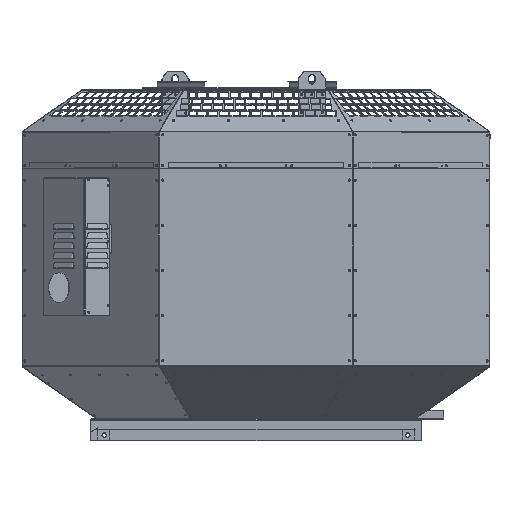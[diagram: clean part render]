
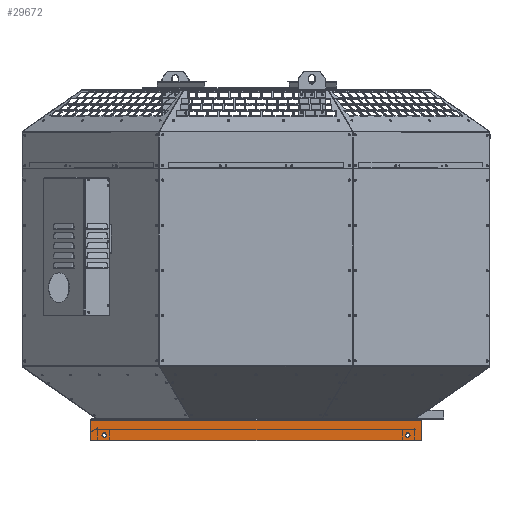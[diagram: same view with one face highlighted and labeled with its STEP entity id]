
A CAD part, top view. The second image highlights one B-rep face of the part: STEP entity #29672.
In plain terms, the highlighted planar face has unit normal (0, 0, 1).
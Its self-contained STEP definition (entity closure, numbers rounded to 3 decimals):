
#38 = LINE ( 'NONE', #112775, #56783 ) ;
#704 = ORIENTED_EDGE ( 'NONE', *, *, #113137, .F. ) ;
#1029 = ORIENTED_EDGE ( 'NONE', *, *, #82099, .T. ) ;
#1618 = VERTEX_POINT ( 'NONE', #97337 ) ;
#3249 = DIRECTION ( 'NONE',  ( 0., -1., 0. ) ) ;
#10495 = EDGE_CURVE ( 'NONE', #85018, #115112, #80330, .T. ) ;
#12364 = EDGE_CURVE ( 'NONE', #115112, #116111, #79699, .T. ) ;
#12641 = CARTESIAN_POINT ( 'NONE',  ( -330.55, 18.5, 337. ) ) ;
#12763 = AXIS2_PLACEMENT_3D ( 'NONE', #77311, #17067, #87442 ) ;
#13485 = FACE_OUTER_BOUND ( 'NONE', #57085, .T. ) ;
#16827 = VERTEX_POINT ( 'NONE', #55317 ) ;
#17067 = DIRECTION ( 'NONE',  ( 0., 0., 1. ) ) ;
#19032 = CIRCLE ( 'NONE', #100185, 3. ) ;
#22202 = ORIENTED_EDGE ( 'NONE', *, *, #10495, .T. ) ;
#22773 = PLANE ( 'NONE',  #102054 ) ;
#26279 = VECTOR ( 'NONE', #34558, 1000. ) ;
#27020 = CARTESIAN_POINT ( 'NONE',  ( -345.45, -25., 337. ) ) ;
#27731 = VERTEX_POINT ( 'NONE', #54025 ) ;
#29275 = CARTESIAN_POINT ( 'NONE',  ( -345.45, -22., 337. ) ) ;
#29672 = ADVANCED_FACE ( 'NONE', ( #90580, #37065, #13485 ), #22773, .T. ) ;
#30452 = CARTESIAN_POINT ( 'NONE',  ( 319., -18.7, 337. ) ) ;
#30883 = ORIENTED_EDGE ( 'NONE', *, *, #129719, .F. ) ;
#32911 = DIRECTION ( 'NONE',  ( 0., 0., 1. ) ) ;
#34558 = DIRECTION ( 'NONE',  ( -1., 0., 0. ) ) ;
#35780 = CARTESIAN_POINT ( 'NONE',  ( -319., -14.2, 337. ) ) ;
#36655 = ORIENTED_EDGE ( 'NONE', *, *, #97940, .F. ) ;
#37065 = FACE_BOUND ( 'NONE', #128053, .T. ) ;
#39372 = DIRECTION ( 'NONE',  ( 0., -1., 0. ) ) ;
#39695 = CIRCLE ( 'NONE', #54553, 4.5 ) ;
#40878 = ORIENTED_EDGE ( 'NONE', *, *, #129261, .F. ) ;
#44026 = ORIENTED_EDGE ( 'NONE', *, *, #94969, .T. ) ;
#45077 = CARTESIAN_POINT ( 'NONE',  ( 319., -9.7, 337. ) ) ;
#45893 = DIRECTION ( 'NONE',  ( 0., -1., 0. ) ) ;
#46549 = LINE ( 'NONE', #106379, #96931 ) ;
#46749 = CARTESIAN_POINT ( 'NONE',  ( -330.55, 16.6, 337. ) ) ;
#47074 = VERTEX_POINT ( 'NONE', #54327 ) ;
#47853 = VECTOR ( 'NONE', #98167, 1000. ) ;
#48304 = DIRECTION ( 'NONE',  ( 0., 0., 1. ) ) ;
#48829 = ORIENTED_EDGE ( 'NONE', *, *, #67696, .F. ) ;
#50472 = VECTOR ( 'NONE', #117193, 1000. ) ;
#51008 = LINE ( 'NONE', #128208, #47853 ) ;
#51034 = VERTEX_POINT ( 'NONE', #30452 ) ;
#52454 = EDGE_LOOP ( 'NONE', ( #110526, #48829 ) ) ;
#53641 = DIRECTION ( 'NONE',  ( 0., 0., 1. ) ) ;
#54025 = CARTESIAN_POINT ( 'NONE',  ( -348.45, -22., 337. ) ) ;
#54327 = CARTESIAN_POINT ( 'NONE',  ( -319., -9.7, 337. ) ) ;
#54553 = AXIS2_PLACEMENT_3D ( 'NONE', #108676, #48304, #118768 ) ;
#54730 = CARTESIAN_POINT ( 'NONE',  ( -330.55, 16.6, 337. ) ) ;
#55317 = CARTESIAN_POINT ( 'NONE',  ( 348.45, 16.6, 337. ) ) ;
#56744 = LINE ( 'NONE', #101358, #107242 ) ;
#56783 = VECTOR ( 'NONE', #82752, 1000. ) ;
#57085 = EDGE_LOOP ( 'NONE', ( #1029, #130665, #36655, #44026, #30883, #116243, #22202, #76528 ) ) ;
#62386 = CIRCLE ( 'NONE', #12763, 4.5 ) ;
#63481 = DIRECTION ( 'NONE',  ( 0., 0., 1. ) ) ;
#67696 = EDGE_CURVE ( 'NONE', #69411, #51034, #78411, .T. ) ;
#69411 = VERTEX_POINT ( 'NONE', #45077 ) ;
#72649 = VERTEX_POINT ( 'NONE', #105861 ) ;
#73550 = EDGE_CURVE ( 'NONE', #51034, #69411, #39695, .T. ) ;
#76528 = ORIENTED_EDGE ( 'NONE', *, *, #12364, .T. ) ;
#77311 = CARTESIAN_POINT ( 'NONE',  ( -319., -14.2, 337. ) ) ;
#78411 = CIRCLE ( 'NONE', #84624, 4.5 ) ;
#79699 = LINE ( 'NONE', #54730, #26279 ) ;
#80330 = LINE ( 'NONE', #46749, #50472 ) ;
#82099 = EDGE_CURVE ( 'NONE', #116111, #27731, #38, .T. ) ;
#82752 = DIRECTION ( 'NONE',  ( 0., -1., 0. ) ) ;
#84624 = AXIS2_PLACEMENT_3D ( 'NONE', #113980, #53641, #124162 ) ;
#85018 = VERTEX_POINT ( 'NONE', #93720 ) ;
#87442 = DIRECTION ( 'NONE',  ( 0., -1., 0. ) ) ;
#90580 = FACE_BOUND ( 'NONE', #52454, .T. ) ;
#93204 = CARTESIAN_POINT ( 'NONE',  ( -348.45, 16.6, 337. ) ) ;
#93720 = CARTESIAN_POINT ( 'NONE',  ( 345.05, 16.6, 337. ) ) ;
#94969 = EDGE_CURVE ( 'NONE', #127777, #1618, #19032, .T. ) ;
#96931 = VECTOR ( 'NONE', #116493, 1000. ) ;
#97337 = CARTESIAN_POINT ( 'NONE',  ( 348.45, -22., 337. ) ) ;
#97940 = EDGE_CURVE ( 'NONE', #127777, #127189, #56744, .T. ) ;
#98167 = DIRECTION ( 'NONE',  ( 1., 0., 0. ) ) ;
#98320 = CARTESIAN_POINT ( 'NONE',  ( -345.05, 16.6, 337. ) ) ;
#99670 = DIRECTION ( 'NONE',  ( 0., 0., 1. ) ) ;
#100185 = AXIS2_PLACEMENT_3D ( 'NONE', #123937, #63481, #3249 ) ;
#101358 = CARTESIAN_POINT ( 'NONE',  ( -330.55, -25., 337. ) ) ;
#102054 = AXIS2_PLACEMENT_3D ( 'NONE', #12641, #32911, #103344 ) ;
#103344 = DIRECTION ( 'NONE',  ( 0., -1., 0. ) ) ;
#105861 = CARTESIAN_POINT ( 'NONE',  ( -319., -18.7, 337. ) ) ;
#106235 = DIRECTION ( 'NONE',  ( 0., 0., 1. ) ) ;
#106379 = CARTESIAN_POINT ( 'NONE',  ( 348.45, 16.6, 337. ) ) ;
#106506 = AXIS2_PLACEMENT_3D ( 'NONE', #35780, #106235, #45893 ) ;
#107242 = VECTOR ( 'NONE', #111526, 1000. ) ;
#108676 = CARTESIAN_POINT ( 'NONE',  ( 319., -14.2, 337. ) ) ;
#109534 = AXIS2_PLACEMENT_3D ( 'NONE', #29275, #99670, #39372 ) ;
#110526 = ORIENTED_EDGE ( 'NONE', *, *, #73550, .F. ) ;
#111526 = DIRECTION ( 'NONE',  ( -1., 0., 0. ) ) ;
#112775 = CARTESIAN_POINT ( 'NONE',  ( -348.45, 16.6, 337. ) ) ;
#113137 = EDGE_CURVE ( 'NONE', #72649, #47074, #127745, .T. ) ;
#113980 = CARTESIAN_POINT ( 'NONE',  ( 319., -14.2, 337. ) ) ;
#115112 = VERTEX_POINT ( 'NONE', #98320 ) ;
#116111 = VERTEX_POINT ( 'NONE', #93204 ) ;
#116243 = ORIENTED_EDGE ( 'NONE', *, *, #128695, .F. ) ;
#116493 = DIRECTION ( 'NONE',  ( 0., -1., 0. ) ) ;
#117193 = DIRECTION ( 'NONE',  ( -1., 0., 0. ) ) ;
#118768 = DIRECTION ( 'NONE',  ( 0., -1., 0. ) ) ;
#123937 = CARTESIAN_POINT ( 'NONE',  ( 345.45, -22., 337. ) ) ;
#124162 = DIRECTION ( 'NONE',  ( 0., -1., 0. ) ) ;
#124753 = EDGE_CURVE ( 'NONE', #27731, #127189, #126656, .T. ) ;
#126656 = CIRCLE ( 'NONE', #109534, 3. ) ;
#127189 = VERTEX_POINT ( 'NONE', #27020 ) ;
#127330 = CARTESIAN_POINT ( 'NONE',  ( 345.45, -25., 337. ) ) ;
#127745 = CIRCLE ( 'NONE', #106506, 4.5 ) ;
#127777 = VERTEX_POINT ( 'NONE', #127330 ) ;
#128053 = EDGE_LOOP ( 'NONE', ( #704, #40878 ) ) ;
#128208 = CARTESIAN_POINT ( 'NONE',  ( 330.55, 16.6, 337. ) ) ;
#128695 = EDGE_CURVE ( 'NONE', #85018, #16827, #51008, .T. ) ;
#129261 = EDGE_CURVE ( 'NONE', #47074, #72649, #62386, .T. ) ;
#129719 = EDGE_CURVE ( 'NONE', #16827, #1618, #46549, .T. ) ;
#130665 = ORIENTED_EDGE ( 'NONE', *, *, #124753, .T. ) ;
